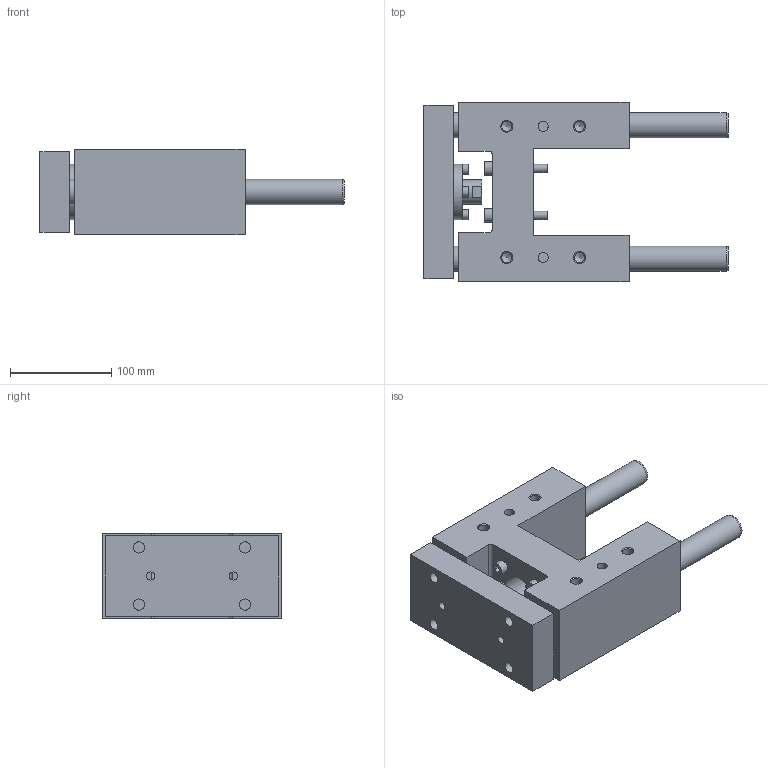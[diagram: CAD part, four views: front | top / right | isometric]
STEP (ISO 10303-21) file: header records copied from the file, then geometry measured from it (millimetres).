
FILE_DESCRIPTION( ( 'STEP AP214' ), '1' );
FILE_NAME( 'U:/Etudes/Top Solid/BIBLIO 3D AVM/TOP/PNEUMATIQUE/GUIDAGES/Type 32 (en H)/R_Renforcée/326R1_30.step', '2005-05-27T09:00:08', ( ' ' ), ( ' ' ), 'XStep 1.0', ' ', ' ' );
FILE_SCHEMA( ( 'automotive_design' ) );
Length unit declared in the file: metre
Products named in the file (2): 1; 2
Bounding box: 301 x 178 x 85 mm (x, y, z)
Volume: 2077206.7 mm3; surface area: 262651.2 mm2
Topology: 2 solids, 7 shells, 209 faces, 484 edges, 321 vertices
Faces by surface type: plane 118, cylinder 70, cone 21
Full cylindrical faces by diameter (mm): 6 x8, 6.5 x4, 8 x10, 8.376 x4, 9 x4, 10 x6, 10.106 x8, 11 x4, 13 x4, 14.376 x2, 18 x4, 24 x1, 25 x4, 26 x1, 34 x1, 37 x1, 40 x1, 55 x1
Entity records: 7089 total; most frequent: CARTESIAN_POINT 1103, DIRECTION 900, ORIENTED_EDGE 696, EDGE_LOOP 358, AXIS2_PLACEMENT_3D 349, EDGE_CURVE 348, VERTEX_POINT 280, FACE_OUTER_BOUND 277
